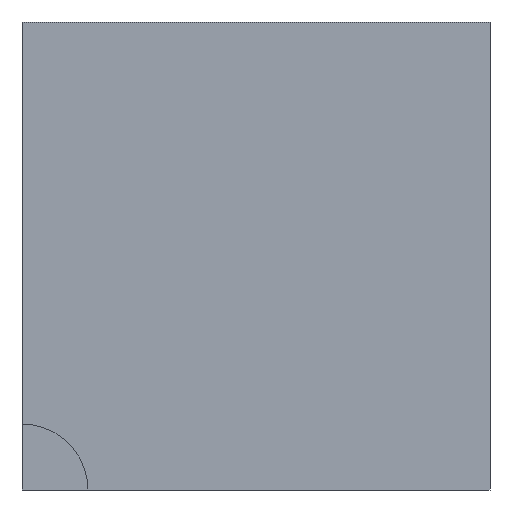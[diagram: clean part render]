
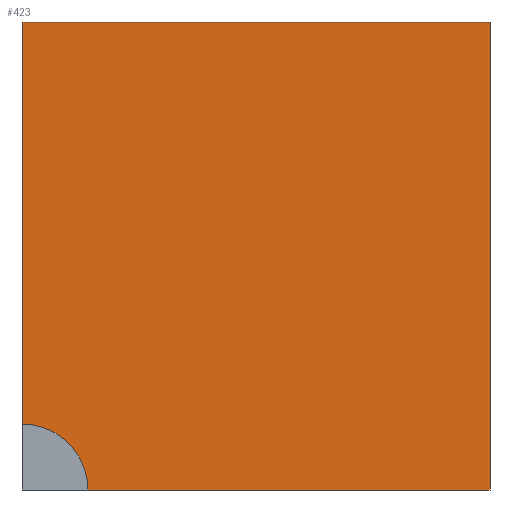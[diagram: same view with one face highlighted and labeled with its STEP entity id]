
A CAD part, left-side view. The second image highlights one B-rep face of the part: STEP entity #423.
In plain terms, the highlighted planar face has unit normal (-1, 0, 0).
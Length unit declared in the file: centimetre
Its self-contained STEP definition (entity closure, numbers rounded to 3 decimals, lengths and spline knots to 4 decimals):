
#7 = EDGE_CURVE ( 'NONE', #567, #1268, #95, .T. ) ;
#29 = VECTOR ( 'NONE', #502, 100. ) ;
#50 = CARTESIAN_POINT ( 'NONE',  ( 0., 1000., 1000. ) ) ;
#68 = FACE_OUTER_BOUND ( 'NONE', #706, .T. ) ;
#69 = DIRECTION ( 'NONE',  ( 0., 0., -1. ) ) ;
#73 = CIRCLE ( 'NONE', #730, 140.9121 ) ;
#95 = LINE ( 'NONE', #1286, #29 ) ;
#97 = EDGE_CURVE ( 'NONE', #985, #906, #419, .T. ) ;
#172 = EDGE_CURVE ( 'NONE', #985, #822, #804, .T. ) ;
#197 = VECTOR ( 'NONE', #1200, 100. ) ;
#269 = DIRECTION ( 'NONE',  ( -1., 0., 0. ) ) ;
#311 = CARTESIAN_POINT ( 'NONE',  ( 0., 0., 0. ) ) ;
#357 = ORIENTED_EDGE ( 'NONE', *, *, #97, .F. ) ;
#367 = VECTOR ( 'NONE', #1021, 100. ) ;
#368 = CARTESIAN_POINT ( 'NONE',  ( 0., 1000., 1000. ) ) ;
#419 = LINE ( 'NONE', #930, #367 ) ;
#423 = ADVANCED_FACE ( 'NONE', ( #68 ), #466, .F. ) ;
#466 = PLANE ( 'NONE',  #546 ) ;
#502 = DIRECTION ( 'NONE',  ( 0., -1., 0. ) ) ;
#526 = CARTESIAN_POINT ( 'NONE',  ( 0., 0., 1000. ) ) ;
#546 = AXIS2_PLACEMENT_3D ( 'NONE', #368, #1149, #1069 ) ;
#567 = VERTEX_POINT ( 'NONE', #1045 ) ;
#702 = ORIENTED_EDGE ( 'NONE', *, *, #1096, .F. ) ;
#706 = EDGE_LOOP ( 'NONE', ( #1073, #702, #1107, #845, #357 ) ) ;
#730 = AXIS2_PLACEMENT_3D ( 'NONE', #1064, #269, #1284 ) ;
#804 = LINE ( 'NONE', #1113, #197 ) ;
#822 = VERTEX_POINT ( 'NONE', #1041 ) ;
#845 = ORIENTED_EDGE ( 'NONE', *, *, #876, .F. ) ;
#876 = EDGE_CURVE ( 'NONE', #906, #1268, #1218, .T. ) ;
#906 = VERTEX_POINT ( 'NONE', #526 ) ;
#926 = CARTESIAN_POINT ( 'NONE',  ( 0., 0., 1000. ) ) ;
#930 = CARTESIAN_POINT ( 'NONE',  ( 0., 1000., 1000. ) ) ;
#985 = VERTEX_POINT ( 'NONE', #50 ) ;
#1021 = DIRECTION ( 'NONE',  ( 0., -1., 0. ) ) ;
#1041 = CARTESIAN_POINT ( 'NONE',  ( 0., 1000., 140.9121 ) ) ;
#1045 = CARTESIAN_POINT ( 'NONE',  ( 0., 859.0879, 0. ) ) ;
#1064 = CARTESIAN_POINT ( 'NONE',  ( 0., 1000., 0. ) ) ;
#1069 = DIRECTION ( 'NONE',  ( 0., 0., -1. ) ) ;
#1073 = ORIENTED_EDGE ( 'NONE', *, *, #172, .T. ) ;
#1096 = EDGE_CURVE ( 'NONE', #567, #822, #73, .T. ) ;
#1107 = ORIENTED_EDGE ( 'NONE', *, *, #7, .T. ) ;
#1113 = CARTESIAN_POINT ( 'NONE',  ( 0., 1000., 1000. ) ) ;
#1149 = DIRECTION ( 'NONE',  ( 1., 0., 0. ) ) ;
#1200 = DIRECTION ( 'NONE',  ( 0., 0., -1. ) ) ;
#1203 = VECTOR ( 'NONE', #69, 100. ) ;
#1218 = LINE ( 'NONE', #926, #1203 ) ;
#1268 = VERTEX_POINT ( 'NONE', #311 ) ;
#1284 = DIRECTION ( 'NONE',  ( 0., 0., 1. ) ) ;
#1286 = CARTESIAN_POINT ( 'NONE',  ( 0., 1000., 0. ) ) ;
